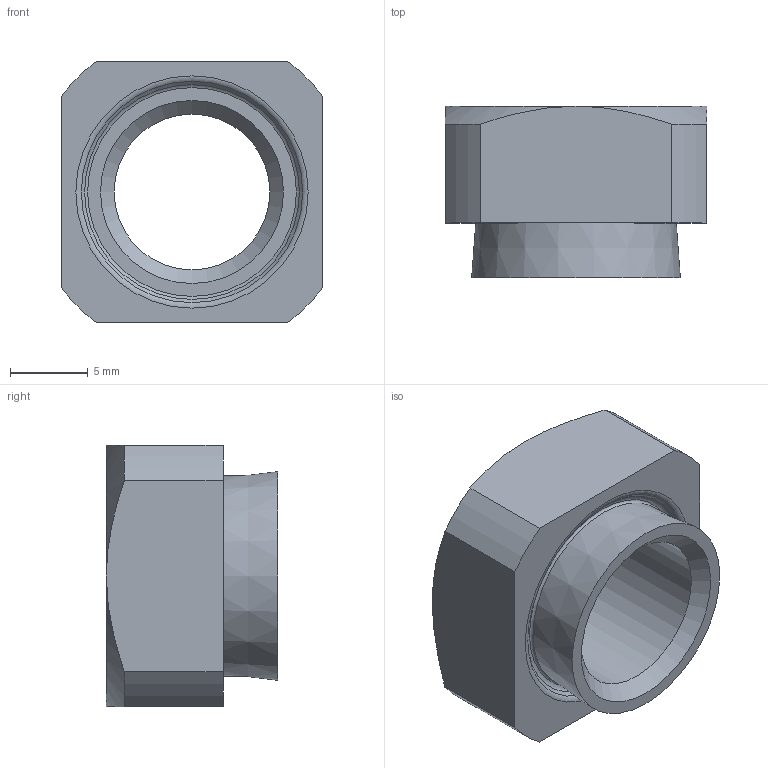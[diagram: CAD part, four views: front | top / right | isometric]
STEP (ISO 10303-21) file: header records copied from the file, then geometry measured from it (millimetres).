
FILE_DESCRIPTION(/* description */ (''),/* implementation_level */ '2;1');
FILE_NAME(/* name */ 'D:\Sukhmani\Fastit\HN Nut\HN 10-4.0.stp',/* time_stamp */ '2024-03-14T12:22:27+06:00',/* author */ ('edc.sukhmani'),/* organization */ (''),/* preprocessor_version */ 'ST-DEVELOPER v18.1',/* originating_system */ 'Autodesk Inventor 2022',/* authorisation */ '');
FILE_SCHEMA (('AUTOMOTIVE_DESIGN { 1 0 10303 214 3 1 1 }'));
Length unit declared in the file: millimetre
Products named in the file (1): HN 10-4.0
Bounding box: 16.8 x 11 x 16.8 mm (x, y, z)
Volume: 1588 mm3; surface area: 1325.4 mm2
Topology: 1 solids, 1 shells, 24 faces, 57 edges, 36 vertices
Faces by surface type: cone 8, plane 7, cylinder 6, torus 3
Full cylindrical faces by diameter (mm): 10 x1, 11.75 x1
Entity records: 743 total; most frequent: CARTESIAN_POINT 134, DIRECTION 130, ORIENTED_EDGE 114, EDGE_CURVE 57, AXIS2_PLACEMENT_3D 56, VERTEX_POINT 36, CIRCLE 31, EDGE_LOOP 27
